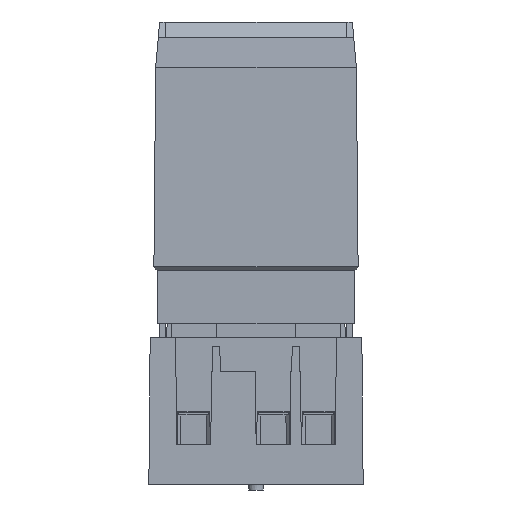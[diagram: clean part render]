
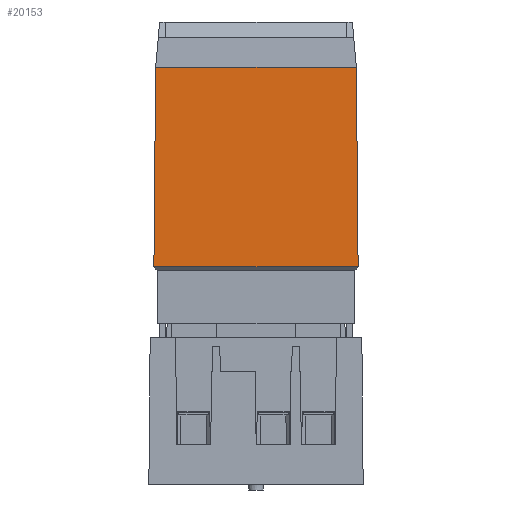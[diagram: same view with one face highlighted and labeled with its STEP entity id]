
A CAD part, front view. The second image highlights one B-rep face of the part: STEP entity #20153.
In plain terms, the highlighted planar face has unit normal (0, -1, 0.009).
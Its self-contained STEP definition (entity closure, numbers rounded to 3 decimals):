
#1746 = ORIENTED_EDGE ( 'NONE', *, *, #26899, .F. ) ;
#2599 = AXIS2_PLACEMENT_3D ( 'NONE', #35718, #35981, #39675 ) ;
#3637 = FACE_OUTER_BOUND ( 'NONE', #12719, .T. ) ;
#4369 = ORIENTED_EDGE ( 'NONE', *, *, #13003, .T. ) ;
#5367 = LINE ( 'NONE', #24575, #14519 ) ;
#5439 = CARTESIAN_POINT ( 'NONE',  ( 0.84, 20.214, 74.948 ) ) ;
#6116 = CARTESIAN_POINT ( 'NONE',  ( 36.798, 20.214, 74.948 ) ) ;
#8687 = CARTESIAN_POINT ( 'NONE',  ( 37.112, 19.905, 39.56 ) ) ;
#8854 = DIRECTION ( 'NONE',  ( 0.009, -0.009, -1. ) ) ;
#10714 = ORIENTED_EDGE ( 'NONE', *, *, #46779, .T. ) ;
#11776 = VERTEX_POINT ( 'NONE', #46461 ) ;
#12177 = VECTOR ( 'NONE', #12654, 1000. ) ;
#12654 = DIRECTION ( 'NONE',  ( 1., 0., 0. ) ) ;
#12719 = EDGE_LOOP ( 'NONE', ( #1746, #26665, #4369, #10714 ) ) ;
#13003 = EDGE_CURVE ( 'NONE', #11776, #30217, #41276, .T. ) ;
#13127 = DIRECTION ( 'NONE',  ( -1., 0., 0. ) ) ;
#14519 = VECTOR ( 'NONE', #8854, 1000. ) ;
#15844 = VECTOR ( 'NONE', #13127, 1000. ) ;
#20153 = ADVANCED_FACE ( 'NONE', ( #3637 ), #34002, .T. ) ;
#21917 = CARTESIAN_POINT ( 'NONE',  ( 0.893, 19.905, 39.56 ) ) ;
#24575 = CARTESIAN_POINT ( 'NONE',  ( 37.157, 19.855, 33.817 ) ) ;
#26620 = DIRECTION ( 'NONE',  ( -0.009, -0.009, -1. ) ) ;
#26665 = ORIENTED_EDGE ( 'NONE', *, *, #34283, .T. ) ;
#26899 = EDGE_CURVE ( 'NONE', #42976, #48278, #5367, .T. ) ;
#27761 = CARTESIAN_POINT ( 'NONE',  ( 37.107, 19.905, 39.56 ) ) ;
#30217 = VERTEX_POINT ( 'NONE', #21917 ) ;
#33345 = CARTESIAN_POINT ( 'NONE',  ( 0.84, 19.852, 33.5 ) ) ;
#33469 = VECTOR ( 'NONE', #26620, 1000. ) ;
#34002 = PLANE ( 'NONE',  #2599 ) ;
#34283 = EDGE_CURVE ( 'NONE', #42976, #11776, #39788, .T. ) ;
#35718 = CARTESIAN_POINT ( 'NONE',  ( 0.84, 19.852, 33.5 ) ) ;
#35981 = DIRECTION ( 'NONE',  ( 0., -1., 0.009 ) ) ;
#39675 = DIRECTION ( 'NONE',  ( 0., -0.009, -1. ) ) ;
#39788 = LINE ( 'NONE', #5439, #15844 ) ;
#41276 = LINE ( 'NONE', #33345, #33469 ) ;
#42976 = VERTEX_POINT ( 'NONE', #6116 ) ;
#43035 = LINE ( 'NONE', #8687, #12177 ) ;
#46461 = CARTESIAN_POINT ( 'NONE',  ( 1.202, 20.214, 74.948 ) ) ;
#46779 = EDGE_CURVE ( 'NONE', #30217, #48278, #43035, .T. ) ;
#48278 = VERTEX_POINT ( 'NONE', #27761 ) ;
